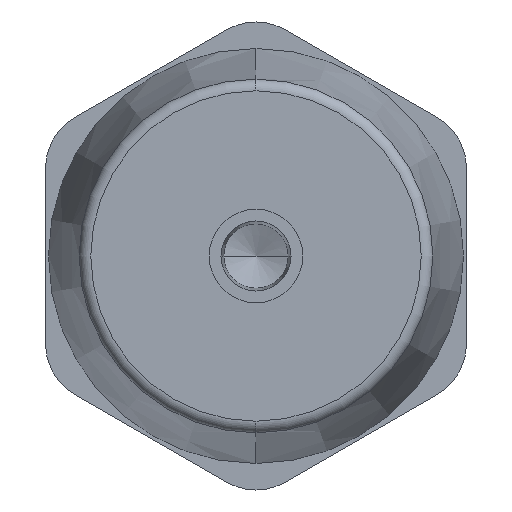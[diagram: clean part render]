
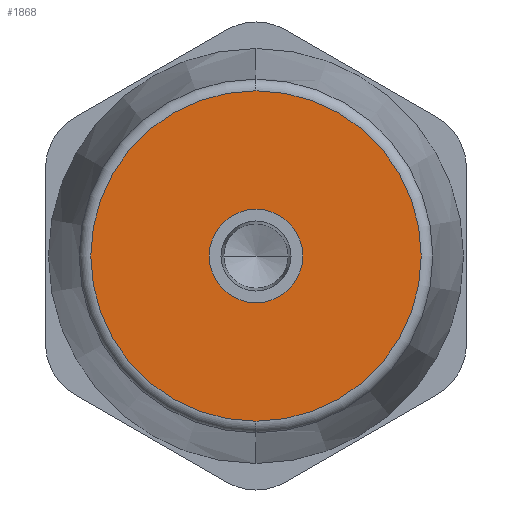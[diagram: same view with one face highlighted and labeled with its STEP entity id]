
A CAD part, front view. The second image highlights one B-rep face of the part: STEP entity #1868.
In plain terms, the highlighted planar face has unit normal (0, -1, 0).
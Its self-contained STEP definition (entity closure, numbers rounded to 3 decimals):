
#285 = CARTESIAN_POINT ( 'NONE',  ( 18., 0., -10.392 ) ) ;
#337 = AXIS2_PLACEMENT_3D ( 'NONE', #391, #1840, #339 ) ;
#339 = DIRECTION ( 'NONE',  ( -1., 0., 0. ) ) ;
#391 = CARTESIAN_POINT ( 'NONE',  ( 0., 0., 0. ) ) ;
#419 = CARTESIAN_POINT ( 'NONE',  ( 0., 0., 0. ) ) ;
#440 = ORIENTED_EDGE ( 'NONE', *, *, #1114, .T. ) ;
#454 = CIRCLE ( 'NONE', #337, 4. ) ;
#549 = CARTESIAN_POINT ( 'NONE',  ( -4., 0., 0. ) ) ;
#560 = EDGE_CURVE ( 'NONE', #1758, #1283, #875, .T. ) ;
#569 = CIRCLE ( 'NONE', #1073, 14.131 ) ;
#574 = DIRECTION ( 'NONE',  ( 0., 1., 0. ) ) ;
#580 = DIRECTION ( 'NONE',  ( 0., -1., 0. ) ) ;
#585 = CARTESIAN_POINT ( 'NONE',  ( 0., 0., -14.131 ) ) ;
#606 = DIRECTION ( 'NONE',  ( 0., 0., 1. ) ) ;
#627 = CARTESIAN_POINT ( 'NONE',  ( 0., 0., 0. ) ) ;
#761 = VERTEX_POINT ( 'NONE', #920 ) ;
#857 = FACE_OUTER_BOUND ( 'NONE', #1654, .T. ) ;
#875 = CIRCLE ( 'NONE', #2239, 14.131 ) ;
#920 = CARTESIAN_POINT ( 'NONE',  ( 4., 0., 0. ) ) ;
#956 = CIRCLE ( 'NONE', #2203, 4. ) ;
#1073 = AXIS2_PLACEMENT_3D ( 'NONE', #627, #2106, #606 ) ;
#1084 = EDGE_CURVE ( 'NONE', #1197, #761, #956, .T. ) ;
#1111 = AXIS2_PLACEMENT_3D ( 'NONE', #285, #2134, #2308 ) ;
#1114 = EDGE_CURVE ( 'NONE', #761, #1197, #454, .T. ) ;
#1140 = DIRECTION ( 'NONE',  ( 0., 0., 1. ) ) ;
#1197 = VERTEX_POINT ( 'NONE', #549 ) ;
#1283 = VERTEX_POINT ( 'NONE', #585 ) ;
#1288 = EDGE_CURVE ( 'NONE', #1283, #1758, #569, .T. ) ;
#1601 = PLANE ( 'NONE',  #1111 ) ;
#1654 = EDGE_LOOP ( 'NONE', ( #2344, #1734 ) ) ;
#1661 = DIRECTION ( 'NONE',  ( -1., 0., 0. ) ) ;
#1734 = ORIENTED_EDGE ( 'NONE', *, *, #1288, .T. ) ;
#1757 = CARTESIAN_POINT ( 'NONE',  ( 0., 0., 14.131 ) ) ;
#1758 = VERTEX_POINT ( 'NONE', #1757 ) ;
#1780 = FACE_BOUND ( 'NONE', #1872, .T. ) ;
#1840 = DIRECTION ( 'NONE',  ( 0., 1., 0. ) ) ;
#1868 = ADVANCED_FACE ( 'NONE', ( #1780, #857 ), #1601, .F. ) ;
#1872 = EDGE_LOOP ( 'NONE', ( #2364, #440 ) ) ;
#2052 = CARTESIAN_POINT ( 'NONE',  ( 0., 0., 0. ) ) ;
#2106 = DIRECTION ( 'NONE',  ( 0., -1., 0. ) ) ;
#2134 = DIRECTION ( 'NONE',  ( 0., 1., 0. ) ) ;
#2203 = AXIS2_PLACEMENT_3D ( 'NONE', #2052, #574, #1661 ) ;
#2239 = AXIS2_PLACEMENT_3D ( 'NONE', #419, #580, #1140 ) ;
#2308 = DIRECTION ( 'NONE',  ( 0., 0., 1. ) ) ;
#2344 = ORIENTED_EDGE ( 'NONE', *, *, #560, .T. ) ;
#2364 = ORIENTED_EDGE ( 'NONE', *, *, #1084, .T. ) ;
